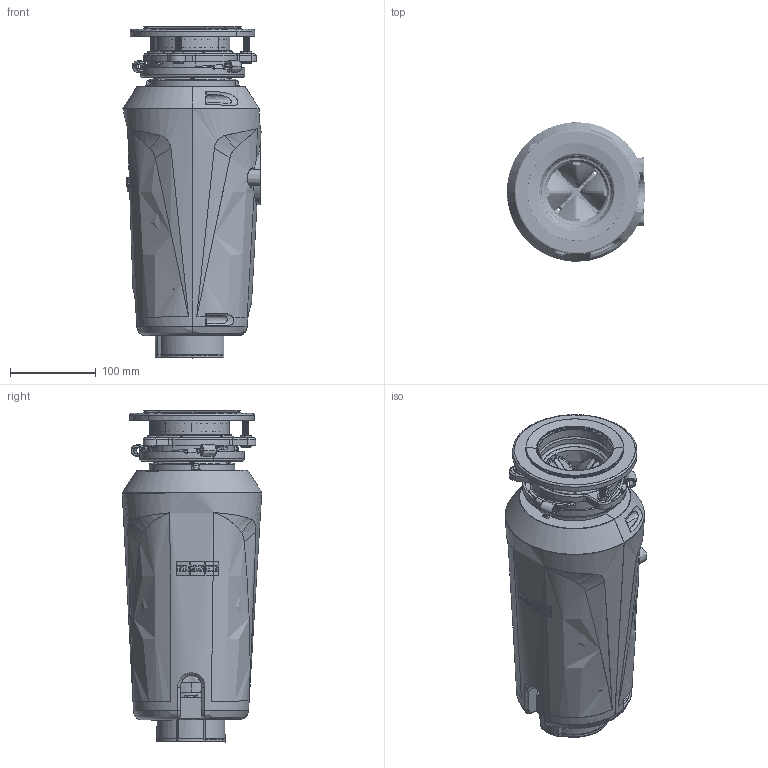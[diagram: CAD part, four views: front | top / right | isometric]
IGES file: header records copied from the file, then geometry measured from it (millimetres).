
Global section: file name: F:\_CONVERSIONE_CAD_2024_2025\_2024\03_3D kits new\Food-Waste-Disposers\134.0715.094 3D001_Food-Waste-Disposers_Elite-Slimline_Slim-125-100-75\3D001_Food-Waste-Disposers_Elite-Slimline_Slim-125-100-75.igs; native system: Rhinoceros ( Feb 13 2024 ); preprocessor: Trout Lake IGES 012 Feb 13 2024; date: 240328.111540; units: millimetre
Bounding box: 161.1 x 162.61 x 387.06 mm (x, y, z)
Surface area: 579885.7 mm2 (no closed solid volume)
Topology: 0 solids, 0 shells, 3540 faces, 27408 edges, 27365 vertices
Faces by surface type: bspline 3540
